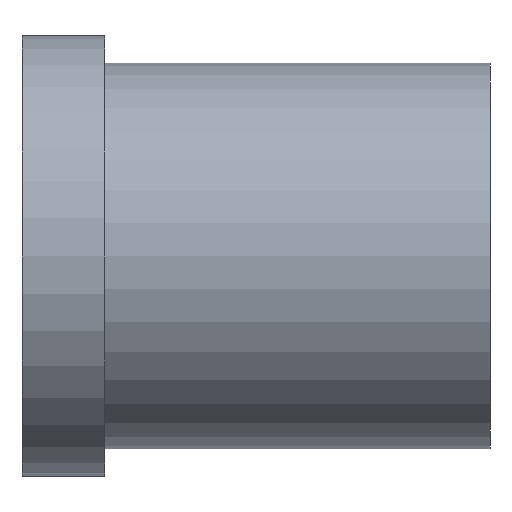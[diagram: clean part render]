
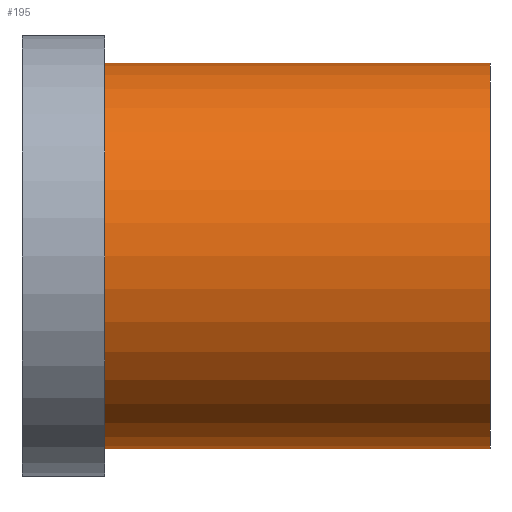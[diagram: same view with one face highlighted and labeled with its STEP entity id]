
A CAD part, left-side view. The second image highlights one B-rep face of the part: STEP entity #195.
In plain terms, the highlighted cylindrical face has radius 7 mm (diameter 14 mm), a full revolution.
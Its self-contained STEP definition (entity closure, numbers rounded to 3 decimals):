
#32=ORIENTED_EDGE('',*,*,#50,.T.);
#33=ORIENTED_EDGE('',*,*,#49,.F.);
#49=EDGE_CURVE('',#59,#59,#69,.T.);
#50=EDGE_CURVE('',#60,#60,#70,.T.);
#59=VERTEX_POINT('',#280);
#60=VERTEX_POINT('',#283);
#69=CIRCLE('',#213,7.);
#70=CIRCLE('',#215,7.);
#82=EDGE_LOOP('',(#32));
#83=EDGE_LOOP('',(#33));
#102=FACE_BOUND('',#82,.T.);
#103=FACE_BOUND('',#83,.T.);
#117=CYLINDRICAL_SURFACE('',#214,7.);
#195=ADVANCED_FACE('',(#102,#103),#117,.T.);
#213=AXIS2_PLACEMENT_3D('',#279,#241,#242);
#214=AXIS2_PLACEMENT_3D('',#281,#243,#244);
#215=AXIS2_PLACEMENT_3D('',#282,#245,#246);
#241=DIRECTION('',(0.,-1.,0.));
#242=DIRECTION('',(0.,0.,-1.));
#243=DIRECTION('',(0.,-1.,0.));
#244=DIRECTION('',(0.,0.,-1.));
#245=DIRECTION('',(0.,-1.,0.));
#246=DIRECTION('',(0.,0.,-1.));
#279=CARTESIAN_POINT('',(0.,0.,0.));
#280=CARTESIAN_POINT('',(0.,0.,-7.));
#281=CARTESIAN_POINT('',(0.,0.,0.));
#282=CARTESIAN_POINT('',(0.,14.,0.));
#283=CARTESIAN_POINT('',(0.,14.,-7.));
